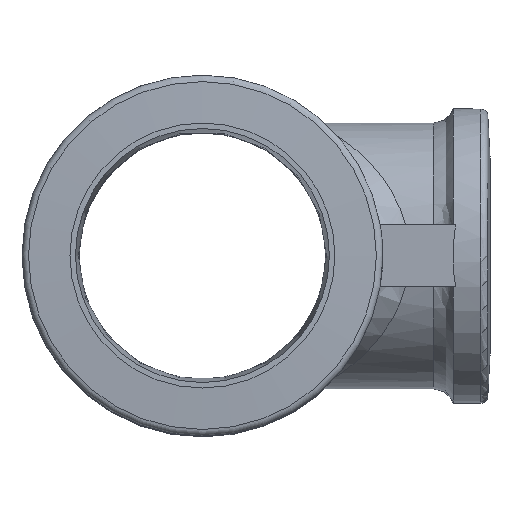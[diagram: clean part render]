
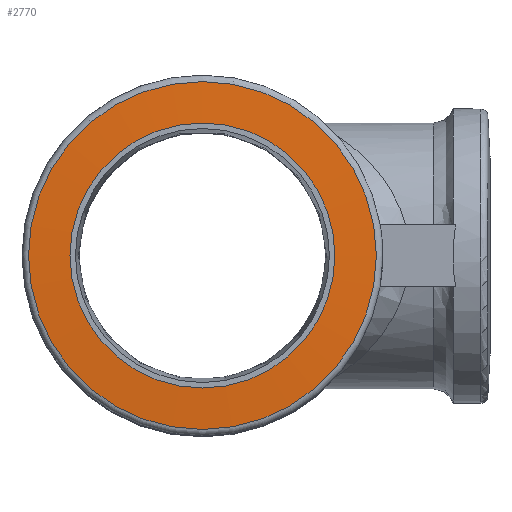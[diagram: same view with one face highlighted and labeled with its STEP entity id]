
A CAD part, top view. The second image highlights one B-rep face of the part: STEP entity #2770.
In plain terms, the highlighted conical face has half-angle 87 degrees and reference radius 22.85 mm.
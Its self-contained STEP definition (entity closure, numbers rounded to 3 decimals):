
#2736=CARTESIAN_POINT('',(19.35,0.,40.0));
#2737=VERTEX_POINT('',#2736);
#2738=CARTESIAN_POINT('',(0.0,0.0,40.0));
#2739=DIRECTION('',(0.0,0.0,-1.0));
#2740=DIRECTION('',(-1.0,0.0,0.0));
#2741=AXIS2_PLACEMENT_3D('',#2738,#2739,#2740);
#2742=CIRCLE('',#2741,19.35);
#2743=EDGE_CURVE('',#2737,#2737,#2742,.T.);
#2751=CARTESIAN_POINT('',(0.0,0.0,39.817));
#2752=DIRECTION('',(0.0,0.0,-1.0));
#2753=DIRECTION('',(-1.0,0.0,0.0));
#2754=AXIS2_PLACEMENT_3D('',#2751,#2752,#2753);
#2755=CONICAL_SURFACE('',#2754,22.85,87.);
#2756=ORIENTED_EDGE('',*,*,#2743,.T.);
#2757=EDGE_LOOP('',(#2756));
#2758=FACE_OUTER_BOUND('',#2757,.T.);
#2759=CARTESIAN_POINT('',(25.402,0.,39.683));
#2760=VERTEX_POINT('',#2759);
#2761=CARTESIAN_POINT('',(0.0,0.,39.683));
#2762=DIRECTION('',(0.0,0.0,-1.0));
#2763=DIRECTION('',(-1.0,0.0,0.0));
#2764=AXIS2_PLACEMENT_3D('',#2761,#2762,#2763);
#2765=CIRCLE('',#2764,25.402);
#2766=EDGE_CURVE('',#2760,#2760,#2765,.T.);
#2767=ORIENTED_EDGE('',*,*,#2766,.F.);
#2768=EDGE_LOOP('',(#2767));
#2769=FACE_BOUND('',#2768,.T.);
#2770=ADVANCED_FACE('',(#2758,#2769),#2755,.T.);
